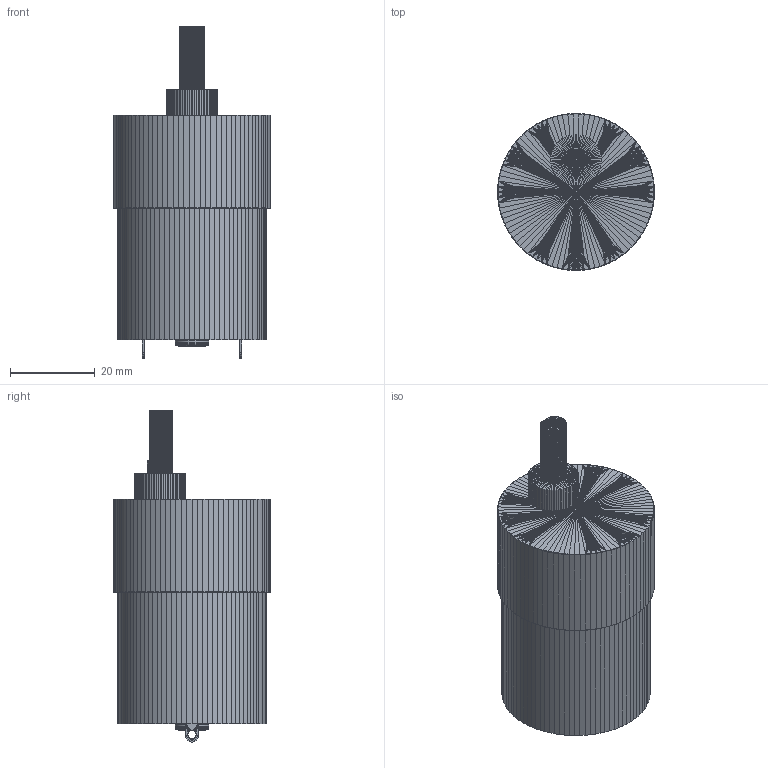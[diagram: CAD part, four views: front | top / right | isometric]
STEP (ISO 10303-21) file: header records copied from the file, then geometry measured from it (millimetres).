
FILE_DESCRIPTION(/* description */ (''),/* implementation_level */ '2;1');
FILE_NAME(/* name */ 'JGB97E~1',/* time_stamp */ '2023-01-13T11:51:32+08:00',/* author */ (''),/* organization */ (''),/* preprocessor_version */ 'ST-DEVELOPER v16.5',/* originating_system */ '',/* authorisation */ '');
FILE_SCHEMA (('CONFIG_CONTROL_DESIGN'));
Products named in the file (1): Document
Bounding box: 37 x 36.98 x 78.3 mm (x, y, z)
Volume: 54424 mm3; surface area: 11232.1 mm2
Topology: 7 solids, 7 shells, 6122 faces, 10827 edges, 4715 vertices
Faces by surface type: plane 4174, bspline 1948
Entity records: 119300 total; most frequent: CARTESIAN_POINT 38337, ORIENTED_EDGE 21654, EDGE_CURVE 10827, B_SPLINE_CURVE_WITH_KNOTS 10827, ADVANCED_FACE 6122, FACE_OUTER_BOUND 6122, EDGE_LOOP 6122, VERTEX_POINT 4715
